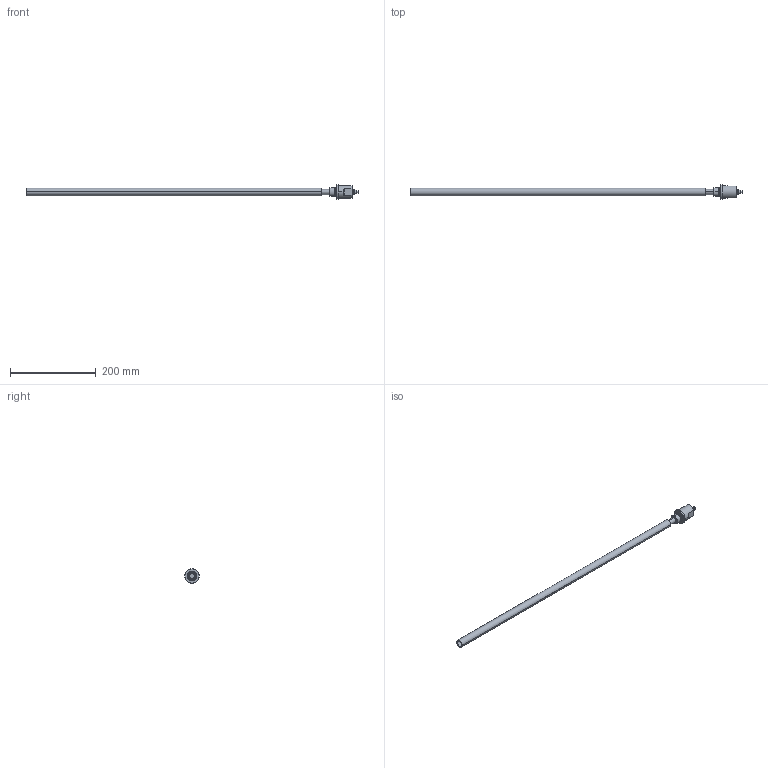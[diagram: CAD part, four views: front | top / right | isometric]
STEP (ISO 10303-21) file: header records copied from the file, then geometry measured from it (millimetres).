
FILE_DESCRIPTION((''),'2;1');
FILE_NAME('EDS-630-S-SA7_MIT_ROHR_ASM','2007-11-29T',('11000065'),(''),'PRO/ENGINEER BY PARAMETRIC TECHNOLOGY CORPORATION, 2007160','PRO/ENGINEER BY PARAMETRIC TECHNOLOGY CORPORATION, 2007160','');
FILE_SCHEMA(('AUTOMOTIVE_DESIGN { 1 2 10303 214 0 1 1 1 }'));
Length unit declared in the file: millimetre
Products named in the file (4): EDS-630-S-SA7; MESSROHR; O-RING-18X1_5; EDS-630-S-SA7_MIT_ROHR_ASM
Assembly tree (3 placements, depth 2):
  EDS-630-S-SA7_MIT_ROHR_ASM
    EDS-630-S-SA7
    MESSROHR
    O-RING-18X1_5
Bounding box: 776.19 x 34 x 34 mm (x, y, z)
Volume: 162820.4 mm3; surface area: 104979.3 mm2
Topology: 3 solids, 4 shells, 150 faces, 369 edges, 232 vertices
Faces by surface type: cylinder 66, plane 30, cone 20, sphere 15, torus 13, bspline 6
Entity records: 5321 total; most frequent: CARTESIAN_POINT 1374, DIRECTION 812, ORIENTED_EDGE 696, AXIS2_PLACEMENT_3D 353, EDGE_CURVE 350, VERTEX_POINT 229, CIRCLE 203, EDGE_LOOP 171
